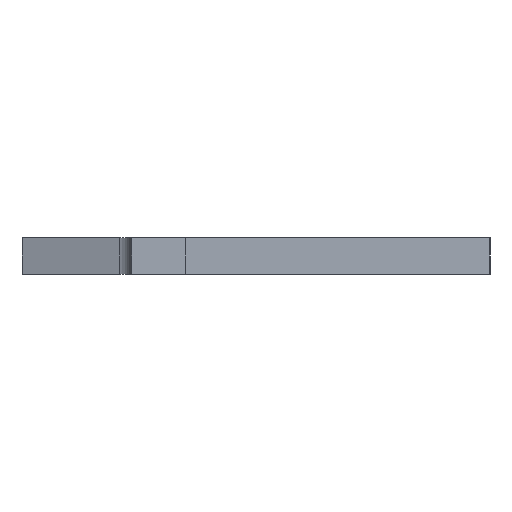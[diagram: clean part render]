
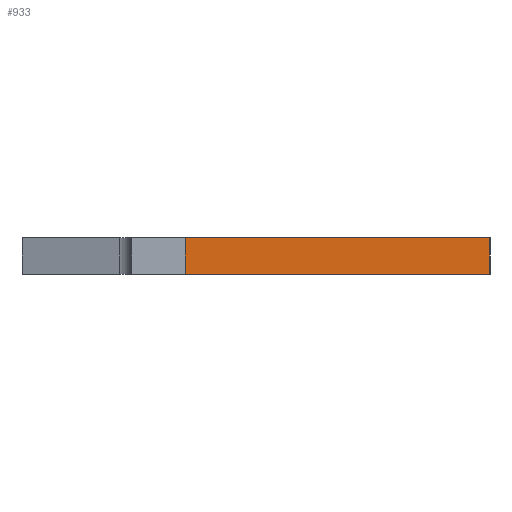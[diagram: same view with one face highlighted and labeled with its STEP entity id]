
A CAD part, left-side view. The second image highlights one B-rep face of the part: STEP entity #933.
In plain terms, the highlighted planar face has unit normal (-1, 0, 0).
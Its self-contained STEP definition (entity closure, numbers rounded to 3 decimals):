
#102 = DIRECTION ( 'NONE',  ( -1., 0., 0. ) ) ;
#103 = DIRECTION ( 'NONE',  ( 0., 0., 1. ) ) ;
#310 = CARTESIAN_POINT ( 'NONE',  ( -4.513, -9.42, -1.5 ) ) ;
#885 = VECTOR ( 'NONE', #103, 1000. ) ;
#933 = ADVANCED_FACE ( 'NONE', ( #1154 ), #2898, .T. ) ;
#1154 = FACE_OUTER_BOUND ( 'NONE', #2965, .T. ) ;
#1213 = CARTESIAN_POINT ( 'NONE',  ( -4.513, -9.42, -1.5 ) ) ;
#1501 = VECTOR ( 'NONE', #5852, 1000. ) ;
#1656 = DIRECTION ( 'NONE',  ( 0., -1., 0. ) ) ;
#1727 = VECTOR ( 'NONE', #5340, 1000. ) ;
#1759 = CARTESIAN_POINT ( 'NONE',  ( -4.513, -34.42, -1.5 ) ) ;
#1881 = CARTESIAN_POINT ( 'NONE',  ( -4.513, -34.42, -1.5 ) ) ;
#2103 = ORIENTED_EDGE ( 'NONE', *, *, #7350, .F. ) ;
#2413 = LINE ( 'NONE', #4693, #4089 ) ;
#2590 = AXIS2_PLACEMENT_3D ( 'NONE', #1759, #102, #3523 ) ;
#2644 = CARTESIAN_POINT ( 'NONE',  ( -4.513, -9.42, 1.5 ) ) ;
#2760 = ORIENTED_EDGE ( 'NONE', *, *, #4818, .T. ) ;
#2898 = PLANE ( 'NONE',  #2590 ) ;
#2965 = EDGE_LOOP ( 'NONE', ( #6837, #2103, #2760, #3572 ) ) ;
#3280 = VERTEX_POINT ( 'NONE', #2644 ) ;
#3474 = EDGE_CURVE ( 'NONE', #3280, #3924, #2413, .T. ) ;
#3523 = DIRECTION ( 'NONE',  ( 0., 0., 1. ) ) ;
#3572 = ORIENTED_EDGE ( 'NONE', *, *, #3976, .T. ) ;
#3924 = VERTEX_POINT ( 'NONE', #5840 ) ;
#3976 = EDGE_CURVE ( 'NONE', #6204, #3924, #6991, .T. ) ;
#4089 = VECTOR ( 'NONE', #1656, 1000. ) ;
#4693 = CARTESIAN_POINT ( 'NONE',  ( -4.513, -34.42, 1.5 ) ) ;
#4818 = EDGE_CURVE ( 'NONE', #7172, #6204, #6897, .T. ) ;
#5220 = CARTESIAN_POINT ( 'NONE',  ( -4.513, -34.42, -1.5 ) ) ;
#5340 = DIRECTION ( 'NONE',  ( 0., 0., 1. ) ) ;
#5840 = CARTESIAN_POINT ( 'NONE',  ( -4.513, -34.42, 1.5 ) ) ;
#5852 = DIRECTION ( 'NONE',  ( 0., -1., 0. ) ) ;
#6204 = VERTEX_POINT ( 'NONE', #7410 ) ;
#6454 = LINE ( 'NONE', #310, #1727 ) ;
#6837 = ORIENTED_EDGE ( 'NONE', *, *, #3474, .F. ) ;
#6897 = LINE ( 'NONE', #5220, #1501 ) ;
#6991 = LINE ( 'NONE', #1881, #885 ) ;
#7172 = VERTEX_POINT ( 'NONE', #1213 ) ;
#7350 = EDGE_CURVE ( 'NONE', #7172, #3280, #6454, .T. ) ;
#7410 = CARTESIAN_POINT ( 'NONE',  ( -4.513, -34.42, -1.5 ) ) ;
